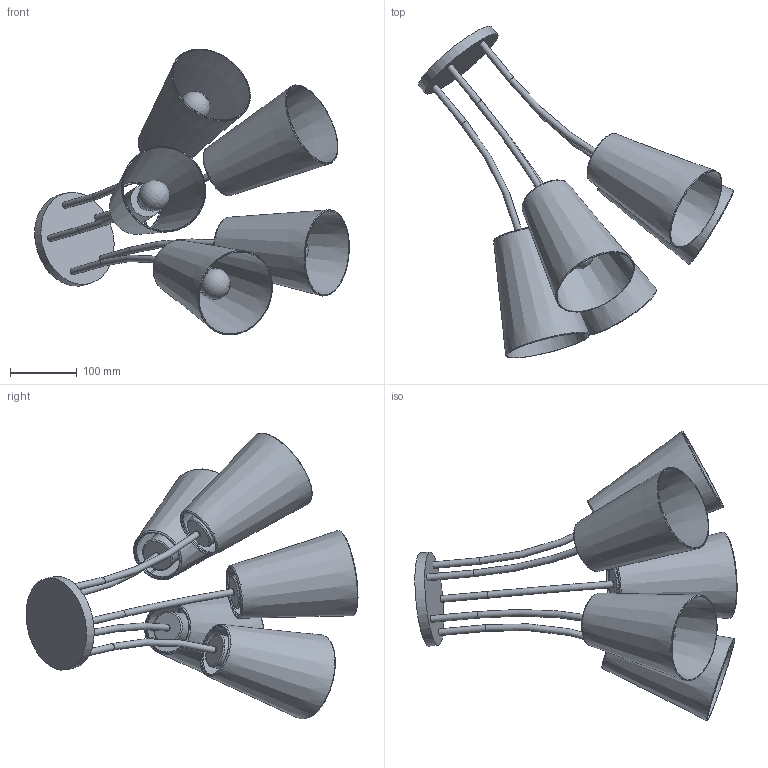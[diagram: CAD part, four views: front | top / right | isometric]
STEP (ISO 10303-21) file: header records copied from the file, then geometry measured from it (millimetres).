
FILE_DESCRIPTION(/* description */ (''),/* implementation_level */ '2;1');
FILE_NAME(/* name */ 'D:\TK Lighting\2021\_Wire Gold\Wire Gold 828.stp',/* time_stamp */ '2021-04-06T00:23:54+02:00',/* author */ ('Admin'),/* organization */ (''),/* preprocessor_version */ 'ST-DEVELOPER v16.5',/* originating_system */ 'Autodesk Inventor 2017',/* authorisation */ '');
FILE_SCHEMA (('AUTOMOTIVE_DESIGN { 1 0 10303 214 3 1 1 }'));
Length unit declared in the file: millimetre
Products named in the file (3): Wire Gold 828; Podsufitka_5; Klosz Wire Gold 827
Assembly tree (6 placements, depth 2):
  Wire Gold 828
    Podsufitka_5
    Klosz Wire Gold 827  x5
Bounding box: 470.74 x 496.63 x 427.51 mm (x, y, z)
Volume: 1617257.2 mm3; surface area: 821294.1 mm2
Topology: 11 solids, 16 shells, 263 faces, 628 edges, 412 vertices
Faces by surface type: plane 182, cylinder 36, torus 20, cone 15, sphere 10
Full cylindrical faces by diameter (mm): 2 x5, 10 x10, 29.255 x5, 30.055 x5, 50 x5, 75 x5, 140 x1
Entity records: 2042 total; most frequent: DIRECTION 337, CARTESIAN_POINT 319, ORIENTED_EDGE 256, AXIS2_PLACEMENT_3D 134, EDGE_CURVE 125, EDGE_LOOP 120, VERTEX_POINT 98, ADVANCED_FACE 75
